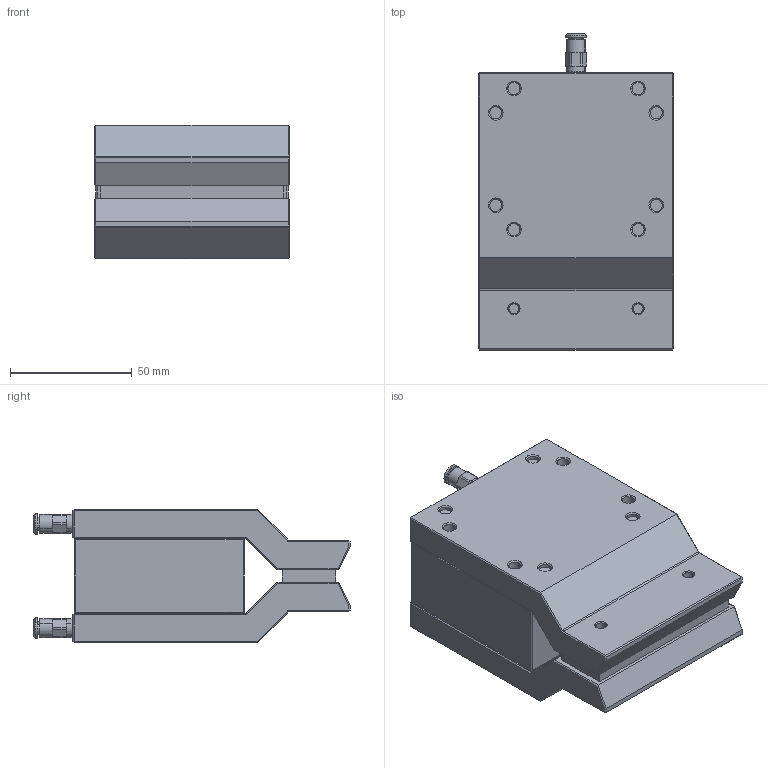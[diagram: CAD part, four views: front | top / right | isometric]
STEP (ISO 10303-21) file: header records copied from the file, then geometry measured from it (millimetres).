
FILE_DESCRIPTION (( 'STEP AP214' ), '1' );
FILE_NAME ('MRP-28NK 3d-model.STEP', '2018-05-07T11:06:25', ( '' ), ( '' ), 'SwSTEP 2.0', 'SolidWorks 2017', '' );
FILE_SCHEMA (( 'AUTOMOTIVE_DESIGN' ));
Length unit declared in the file: millimetre
Products named in the file (1): MRP-28NK 3d-model
Bounding box: 80 x 130 x 54.8 mm (x, y, z)
Volume: 400313.7 mm3; surface area: 48702.7 mm2
Topology: 1 solids, 1 shells, 512 faces, 1164 edges, 682 vertices
Faces by surface type: plane 250, cone 136, cylinder 122, torus 4
Entity records: 15638 total; most frequent: CARTESIAN_POINT 2727, DIRECTION 2458, ORIENTED_EDGE 2288, EDGE_CURVE 1144, AXIS2_PLACEMENT_3D 901, VERTEX_POINT 682, VECTOR 656, LINE 656
